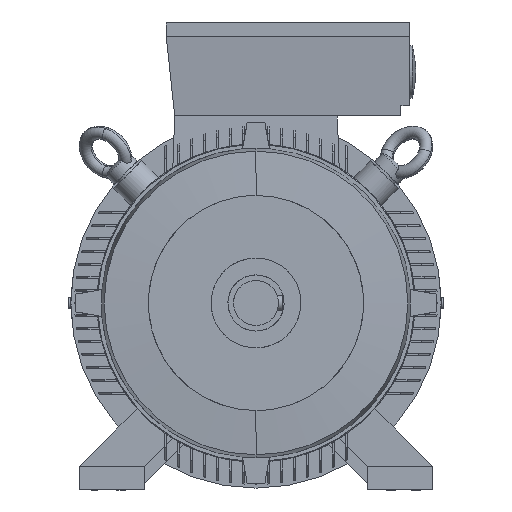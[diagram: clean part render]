
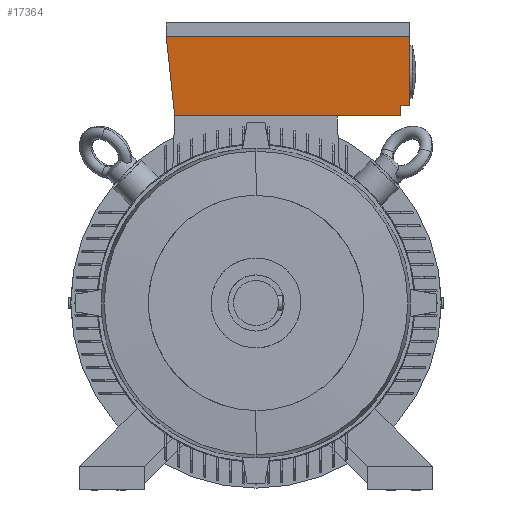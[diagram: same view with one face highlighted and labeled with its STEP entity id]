
A CAD part, left-side view. The second image highlights one B-rep face of the part: STEP entity #17364.
In plain terms, the highlighted planar face has unit normal (-0.995, 0, -0.096).
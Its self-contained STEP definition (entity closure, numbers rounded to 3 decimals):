
#13 = ORIENTED_EDGE ( 'NONE', *, *, #21839, .F. ) ;
#14 = ORIENTED_EDGE ( 'NONE', *, *, #21834, .F. ) ;
#15 = ORIENTED_EDGE ( 'NONE', *, *, #17558, .F. ) ;
#16 = ORIENTED_EDGE ( 'NONE', *, *, #17560, .F. ) ;
#17 = ORIENTED_EDGE ( 'NONE', *, *, #17563, .F. ) ;
#18 = ORIENTED_EDGE ( 'NONE', *, *, #21843, .F. ) ;
#1675 = VERTEX_POINT ( 'NONE', #34987 ) ;
#1709 = VERTEX_POINT ( 'NONE', #35009 ) ;
#1719 = VERTEX_POINT ( 'NONE', #35026 ) ;
#1735 = VERTEX_POINT ( 'NONE', #35042 ) ;
#4447 = VERTEX_POINT ( 'NONE', #13920 ) ;
#4458 = VERTEX_POINT ( 'NONE', #13931 ) ;
#6621 = AXIS2_PLACEMENT_3D ( 'NONE', #15143, #15156, #15157 ) ;
#6685 = VECTOR ( 'NONE', #9793, 1000. ) ;
#6686 = VECTOR ( 'NONE', #9786, 1000. ) ;
#6688 = VECTOR ( 'NONE', #9790, 1000. ) ;
#9657 = LINE ( 'NONE', #9791, #6685 ) ;
#9658 = LINE ( 'NONE', #9785, #6686 ) ;
#9785 = CARTESIAN_POINT ( 'NONE',  ( 21.2, 87., 200. ) ) ;
#9786 = DIRECTION ( 'NONE',  ( -0.095, 0.105, 0.99 ) ) ;
#9787 = LINE ( 'NONE', #9789, #6688 ) ;
#9789 = CARTESIAN_POINT ( 'NONE',  ( 21.2, 0., 200. ) ) ;
#9790 = DIRECTION ( 'NONE',  ( 0., 1., 0. ) ) ;
#9791 = CARTESIAN_POINT ( 'NONE',  ( 20.139, -155., 211. ) ) ;
#9793 = DIRECTION ( 'NONE',  ( 0.096, 0., -0.995 ) ) ;
#13920 = CARTESIAN_POINT ( 'NONE',  ( 21.2, 87., 200. ) ) ;
#13931 = CARTESIAN_POINT ( 'NONE',  ( 21.2, -155., 200. ) ) ;
#15143 = CARTESIAN_POINT ( 'NONE',  ( 13., 96., 285. ) ) ;
#15150 = FACE_OUTER_BOUND ( 'NONE', #21231, .T. ) ;
#15152 = PLANE ( 'NONE',  #6621 ) ;
#15156 = DIRECTION ( 'NONE',  ( 0.995, 0., 0.096 ) ) ;
#15157 = DIRECTION ( 'NONE',  ( 0.096, 0., -0.995 ) ) ;
#17364 = ADVANCED_FACE ( 'NONE', ( #15150 ), #15152, .F. ) ;
#17558 = EDGE_CURVE ( 'NONE', #4447, #1675, #9658, .T. ) ;
#17560 = EDGE_CURVE ( 'NONE', #4458, #4447, #9787, .T. ) ;
#17563 = EDGE_CURVE ( 'NONE', #1719, #4458, #9657, .T. ) ;
#21231 = EDGE_LOOP ( 'NONE', ( #13, #14, #15, #16, #17, #18 ) ) ;
#21834 = EDGE_CURVE ( 'NONE', #1675, #1709, #31291, .T. ) ;
#21839 = EDGE_CURVE ( 'NONE', #1709, #1735, #31313, .T. ) ;
#21843 = EDGE_CURVE ( 'NONE', #1735, #1719, #31325, .T. ) ;
#28051 = VECTOR ( 'NONE', #31300, 1000. ) ;
#28062 = VECTOR ( 'NONE', #31315, 1000. ) ;
#28069 = VECTOR ( 'NONE', #31327, 1000. ) ;
#31291 = LINE ( 'NONE', #31299, #28051 ) ;
#31299 = CARTESIAN_POINT ( 'NONE',  ( 13., 96., 285. ) ) ;
#31300 = DIRECTION ( 'NONE',  ( 0., -1., 0. ) ) ;
#31313 = LINE ( 'NONE', #31314, #28062 ) ;
#31314 = CARTESIAN_POINT ( 'NONE',  ( 13., -164., 285. ) ) ;
#31315 = DIRECTION ( 'NONE',  ( 0.096, 0., -0.995 ) ) ;
#31325 = LINE ( 'NONE', #31326, #28069 ) ;
#31326 = CARTESIAN_POINT ( 'NONE',  ( 20.139, 96., 211. ) ) ;
#31327 = DIRECTION ( 'NONE',  ( 0., 1., 0. ) ) ;
#34987 = CARTESIAN_POINT ( 'NONE',  ( 13., 96., 285. ) ) ;
#35009 = CARTESIAN_POINT ( 'NONE',  ( 13., -164., 285. ) ) ;
#35026 = CARTESIAN_POINT ( 'NONE',  ( 20.139, -155., 211. ) ) ;
#35042 = CARTESIAN_POINT ( 'NONE',  ( 20.139, -164., 211. ) ) ;
